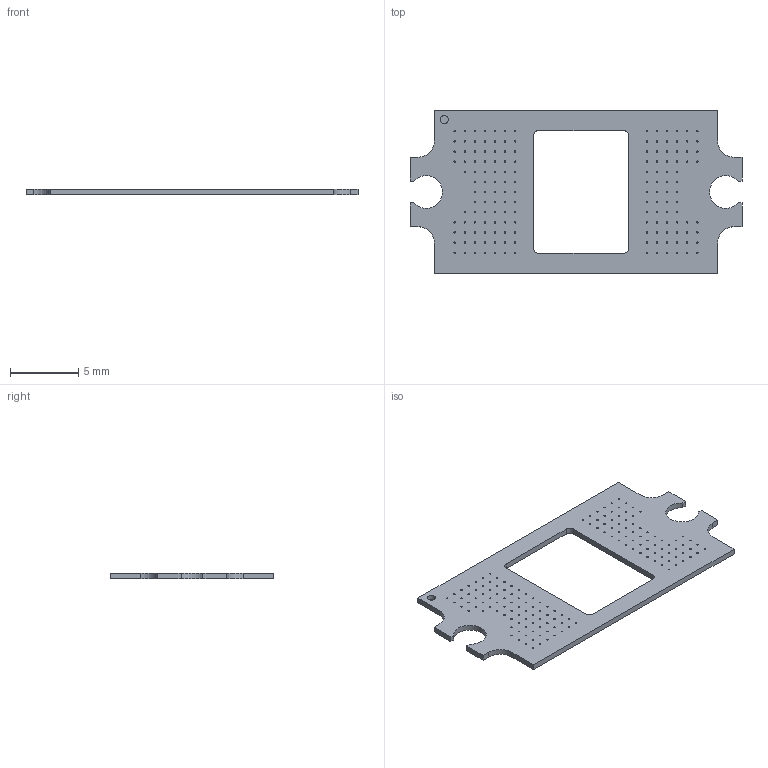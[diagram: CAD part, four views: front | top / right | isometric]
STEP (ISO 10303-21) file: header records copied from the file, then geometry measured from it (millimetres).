
FILE_DESCRIPTION (( 'STEP AP214' ), '1' );
FILE_NAME ('2518817.STEP', '2023-05-17T13:52:20', ( '' ), ( '' ), 'SwSTEP 2.0', 'SolidWorks 2021', '' );
FILE_SCHEMA (( 'AUTOMOTIVE_DESIGN' ));
Length unit declared in the file: millimetre
Products named in the file (1): 2518817
Bounding box: 24.36 x 12 x 0.43 mm (x, y, z)
Volume: 84.3 mm3; surface area: 451.9 mm2
Topology: 1 solids, 1 shells, 944 faces, 1917 edges, 1278 vertices
Faces by surface type: cylinder 617, plane 327
Entity records: 25413 total; most frequent: DIRECTION 5041, CARTESIAN_POINT 4140, ORIENTED_EDGE 3834, AXIS2_PLACEMENT_3D 2179, EDGE_CURVE 1917, VERTEX_POINT 1278, EDGE_LOOP 1249, CIRCLE 1234
